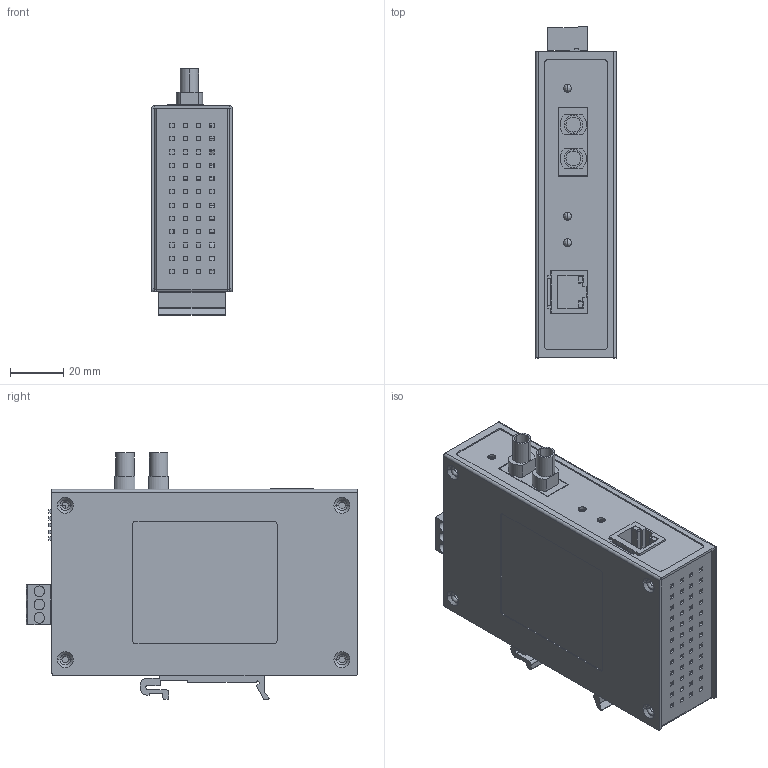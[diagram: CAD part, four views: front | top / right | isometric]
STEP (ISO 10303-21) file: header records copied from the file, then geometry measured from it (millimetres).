
FILE_DESCRIPTION((''),'2;1');
FILE_NAME('IMC-21A-M-ST','2011-03-16T',('Chialu_Chang'),(''),'PRO/ENGINEER BY PARAMETRIC TECHNOLOGY CORPORATION, 2004320','PRO/ENGINEER BY PARAMETRIC TECHNOLOGY CORPORATION, 2004320','');
FILE_SCHEMA(('CONFIG_CONTROL_DESIGN'));
Length unit declared in the file: millimetre
Products named in the file (1): IMC-21A-M-ST
Bounding box: 30.3 x 124.7 x 92.5 mm (x, y, z)
Surface area: 103895.7 mm2 (no closed solid volume)
Topology: 0 solids, 25 shells, 1379 faces, 3592 edges, 2347 vertices
Faces by surface type: plane 900, cylinder 351, torus 58, cone 58, bspline 12
Entity records: 42885 total; most frequent: CARTESIAN_POINT 7768, DIRECTION 7383, ORIENTED_EDGE 7144, EDGE_CURVE 3584, VECTOR 2491, LINE 2491, AXIS2_PLACEMENT_3D 2446, VERTEX_POINT 2347
